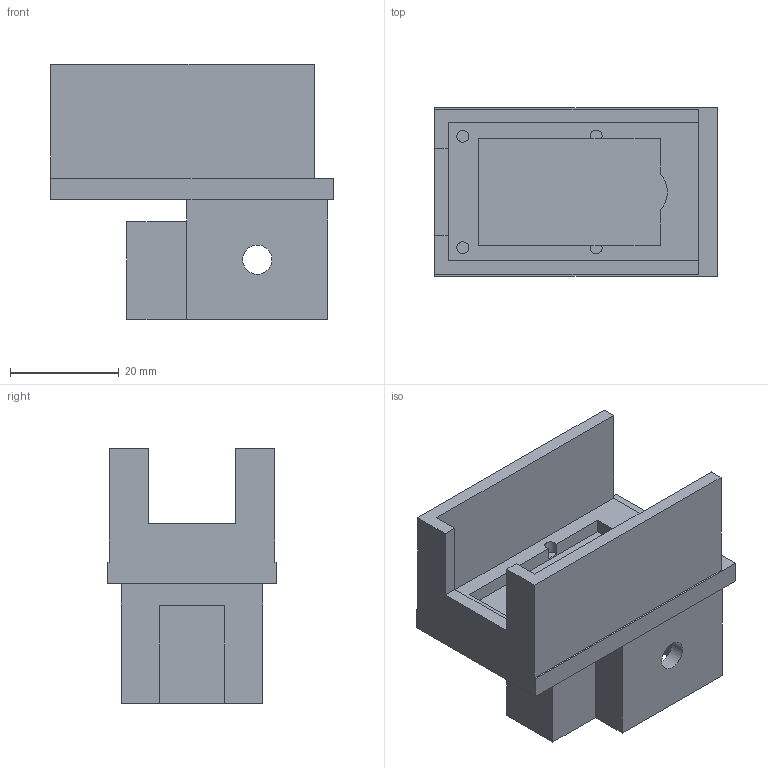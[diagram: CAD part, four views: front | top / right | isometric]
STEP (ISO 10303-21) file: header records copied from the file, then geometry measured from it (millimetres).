
FILE_DESCRIPTION(('Open CASCADE Model'),'2;1');
FILE_NAME('Open CASCADE Shape Model','2026-10-02T23:27:48',('Author'),( 'Open CASCADE'),'Open CASCADE STEP processor 7.9','Open CASCADE 7.9' ,'Unknown');
FILE_SCHEMA(('AUTOMOTIVE_DESIGN { 1 0 10303 214 1 1 1 1 }'));
Length unit declared in the file: millimetre
Products named in the file (1): Open CASCADE STEP translator 7.9 13
Bounding box: 52 x 31 x 46.9 mm (x, y, z)
Volume: 20760.2 mm3; surface area: 13918.6 mm2
Topology: 1 solids, 1 shells, 54 faces, 144 edges, 96 vertices
Faces by surface type: plane 45, cylinder 9
Full cylindrical faces by diameter (mm): 2.2 x2, 5.4 x4
Entity records: 3572 total; most frequent: CARTESIAN_POINT 696, DIRECTION 512, LINE 361, VECTOR 361, ORIENTED_EDGE 288, PCURVE 288, DEFINITIONAL_REPRESENTATION 288, EDGE_CURVE 144
